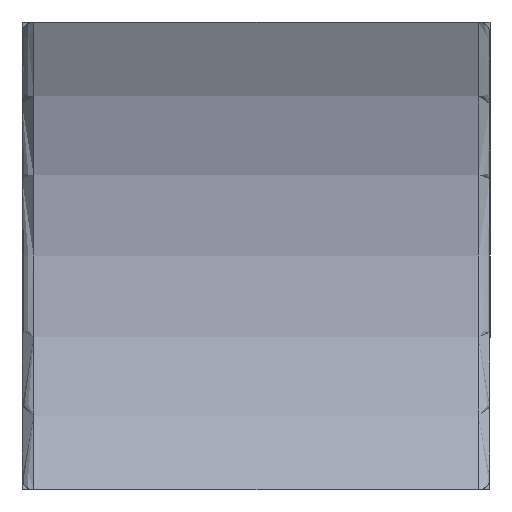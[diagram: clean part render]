
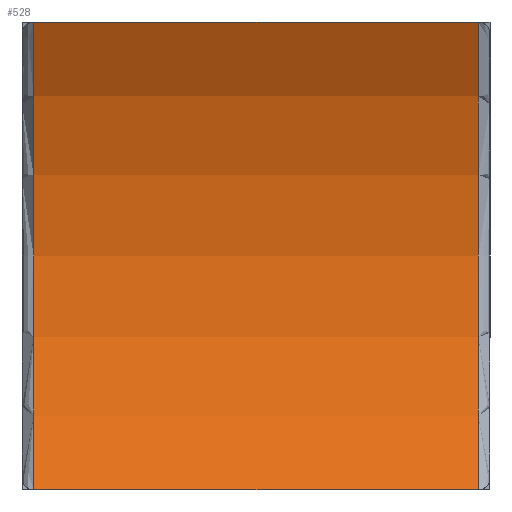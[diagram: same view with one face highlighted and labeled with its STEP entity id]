
A CAD part, front view. The second image highlights one B-rep face of the part: STEP entity #528.
In plain terms, the highlighted cylindrical face has radius 10 mm (diameter 20 mm), a partial arc.
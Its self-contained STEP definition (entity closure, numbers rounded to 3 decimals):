
#8 = CARTESIAN_POINT ( 'NONE',  ( -4.75, 8.66, -5. ) ) ;
#41 = VERTEX_POINT ( 'NONE', #44 ) ;
#44 = CARTESIAN_POINT ( 'NONE',  ( -4.75, 8.66, 5. ) ) ;
#55 = EDGE_CURVE ( 'NONE', #41, #383, #615, .T. ) ;
#96 = EDGE_CURVE ( 'NONE', #870, #224, #764, .T. ) ;
#110 = CIRCLE ( 'NONE', #747, 10. ) ;
#127 = ORIENTED_EDGE ( 'NONE', *, *, #829, .T. ) ;
#186 = DIRECTION ( 'NONE',  ( 0., 0., 1. ) ) ;
#190 = ORIENTED_EDGE ( 'NONE', *, *, #96, .F. ) ;
#194 = EDGE_LOOP ( 'NONE', ( #190, #807, #620, #127 ) ) ;
#201 = AXIS2_PLACEMENT_3D ( 'NONE', #465, #258, #186 ) ;
#216 = FACE_OUTER_BOUND ( 'NONE', #194, .T. ) ;
#224 = VERTEX_POINT ( 'NONE', #8 ) ;
#246 = CARTESIAN_POINT ( 'NONE',  ( 4.75, 8.66, 5. ) ) ;
#258 = DIRECTION ( 'NONE',  ( 1., 0., 0. ) ) ;
#298 = VECTOR ( 'NONE', #702, 1000. ) ;
#319 = CARTESIAN_POINT ( 'NONE',  ( -5., 8.66, 5. ) ) ;
#369 = DIRECTION ( 'NONE',  ( 0., 0., -1. ) ) ;
#383 = VERTEX_POINT ( 'NONE', #246 ) ;
#453 = VECTOR ( 'NONE', #894, 1000. ) ;
#464 = CYLINDRICAL_SURFACE ( 'NONE', #681, 10. ) ;
#465 = CARTESIAN_POINT ( 'NONE',  ( 4.75, 0., 0. ) ) ;
#483 = EDGE_CURVE ( 'NONE', #870, #383, #559, .T. ) ;
#511 = DIRECTION ( 'NONE',  ( 0., 0., 1. ) ) ;
#528 = ADVANCED_FACE ( 'NONE', ( #216 ), #464, .F. ) ;
#559 = CIRCLE ( 'NONE', #201, 10. ) ;
#615 = LINE ( 'NONE', #319, #453 ) ;
#620 = ORIENTED_EDGE ( 'NONE', *, *, #55, .F. ) ;
#628 = CARTESIAN_POINT ( 'NONE',  ( -5., 8.66, -5. ) ) ;
#681 = AXIS2_PLACEMENT_3D ( 'NONE', #718, #727, #369 ) ;
#702 = DIRECTION ( 'NONE',  ( -1., 0., 0. ) ) ;
#718 = CARTESIAN_POINT ( 'NONE',  ( -5., 0., 0. ) ) ;
#727 = DIRECTION ( 'NONE',  ( 1., 0., 0. ) ) ;
#747 = AXIS2_PLACEMENT_3D ( 'NONE', #859, #791, #511 ) ;
#764 = LINE ( 'NONE', #628, #298 ) ;
#791 = DIRECTION ( 'NONE',  ( -1., 0., 0. ) ) ;
#795 = CARTESIAN_POINT ( 'NONE',  ( 4.75, 8.66, -5. ) ) ;
#807 = ORIENTED_EDGE ( 'NONE', *, *, #483, .T. ) ;
#829 = EDGE_CURVE ( 'NONE', #41, #224, #110, .T. ) ;
#859 = CARTESIAN_POINT ( 'NONE',  ( -4.75, 0., 0. ) ) ;
#870 = VERTEX_POINT ( 'NONE', #795 ) ;
#894 = DIRECTION ( 'NONE',  ( 1., 0., 0. ) ) ;
